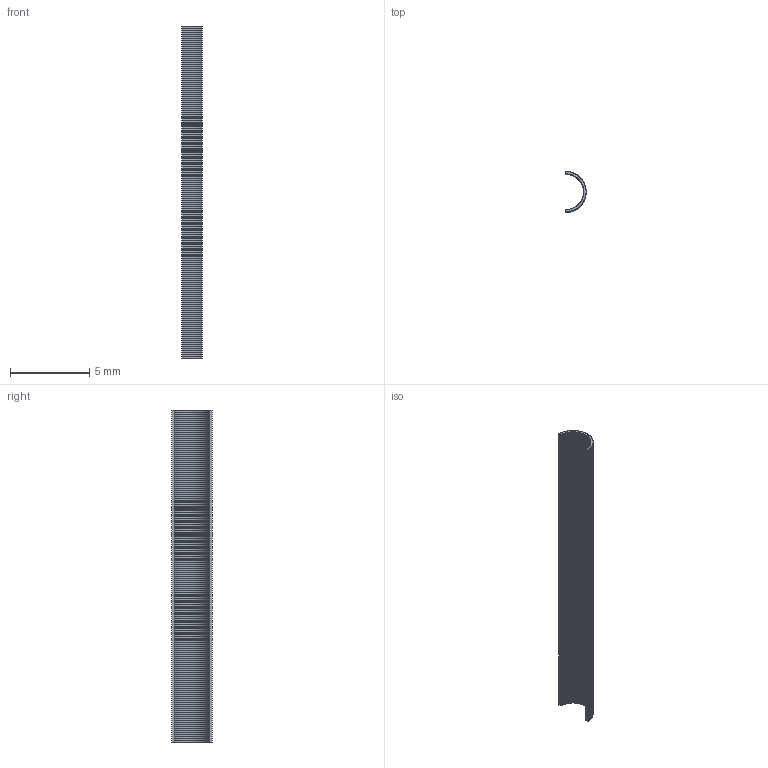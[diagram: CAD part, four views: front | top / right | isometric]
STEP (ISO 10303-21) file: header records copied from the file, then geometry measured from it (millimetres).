
FILE_DESCRIPTION(('Open CASCADE Model'),'2;1');
FILE_NAME('Open CASCADE Shape Model','2026-10-04T02:31:46',('Author'),( 'Open CASCADE'),'Open CASCADE STEP processor 8.0','Open CASCADE 8.0' ,'Unknown');
FILE_SCHEMA(('AUTOMOTIVE_DESIGN { 1 0 10303 214 1 1 1 1 }'));
Length unit declared in the file: millimetre
Products named in the file (1): Open CASCADE STEP translator 8.0 407
Bounding box: 1.27 x 2.55 x 21 mm (x, y, z)
Volume: 11.9 mm3; surface area: 165.8 mm2
Topology: 1 solids, 1 shells, 364 faces, 1086 edges, 724 vertices
Faces by surface type: plane 364
Entity records: 26098 total; most frequent: CARTESIAN_POINT 4347, DIRECTION 3988, LINE 3258, VECTOR 3258, ORIENTED_EDGE 2172, PCURVE 2172, DEFINITIONAL_REPRESENTATION 2172, EDGE_CURVE 1086
